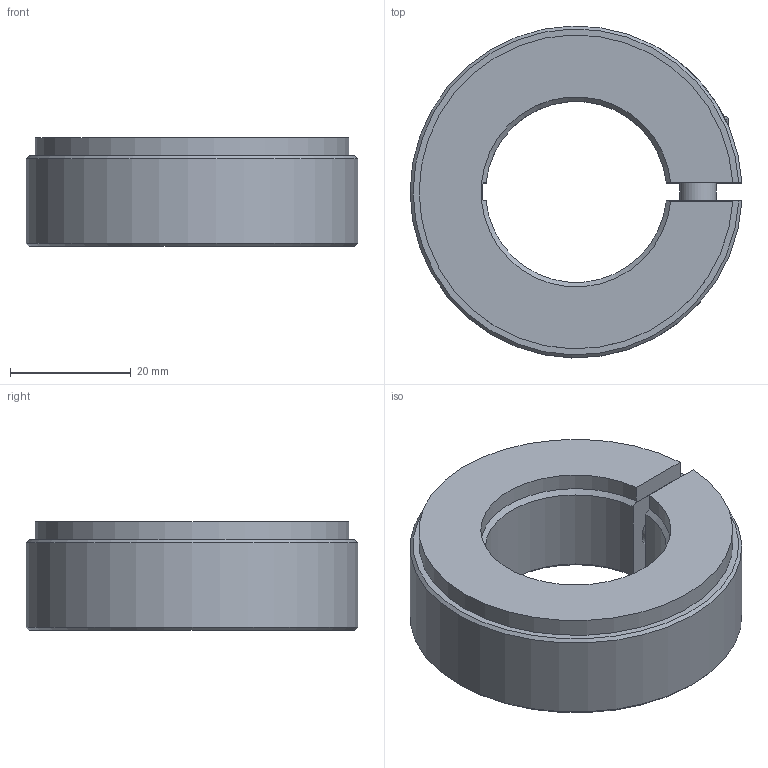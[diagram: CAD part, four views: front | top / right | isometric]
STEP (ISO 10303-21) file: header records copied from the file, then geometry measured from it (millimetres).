
FILE_DESCRIPTION( ( 'STEP AP203' ), '1' );
FILE_NAME( 'C:/Temp/Ganter_Step_05_03_2020/data/3_2/gn7062_3/Semi-split Stainless Steel-Set collar GN 7062.3-55-B30-NI.stp', '2020-03-13T05:40:26', ( 'License CC BY-ND 4.0' ), ( 'CADENAS' ), ' ', 'PARTsolutions', ' ' );
FILE_SCHEMA( ( 'CONFIG_CONTROL_DESIGN' ) );
Length unit declared in the file: millimetre
Products named in the file (1): _Semi-split Stainless Steel-Set collar GN 7062.3-55-B30-NI
Bounding box: 54.96 x 54.98 x 18 mm (x, y, z)
Volume: 27503.2 mm3; surface area: 9161.3 mm2
Topology: 1 solids, 1 shells, 36 faces, 89 edges, 59 vertices
Faces by surface type: plane 20, cylinder 10, cone 5, torus 1
Full cylindrical faces by diameter (mm): 6 x1, 6.4 x1, 10 x1, 10.5 x1
Entity records: 1190 total; most frequent: CARTESIAN_POINT 305, DIRECTION 170, ORIENTED_EDGE 168, EDGE_CURVE 84, AXIS2_PLACEMENT_3D 64, VERTEX_POINT 59, EDGE_LOOP 47, LINE 42
